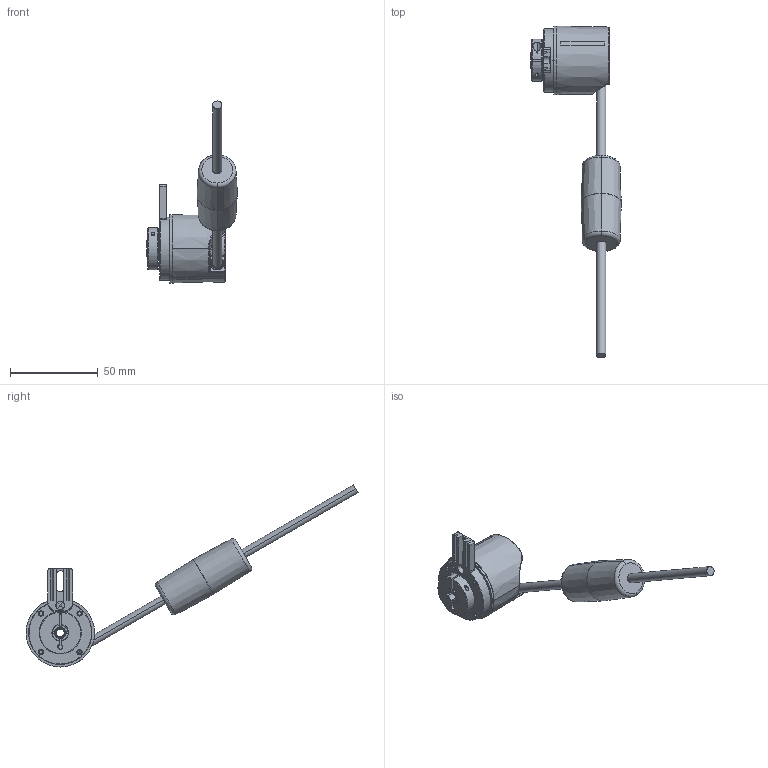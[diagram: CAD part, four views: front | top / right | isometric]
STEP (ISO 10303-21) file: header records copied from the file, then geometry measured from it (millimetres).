
FILE_DESCRIPTION (( 'STEP AP214' ), '1' );
FILE_NAME ('F3688.3521.XXXX.STEP', '2010-11-16T07:35:45', ( 'admin' ), ( 'Fritz Kübler GmbH' ), 'SwSTEP 2.0', 'SolidWorks 2009', '' );
FILE_SCHEMA (( 'AUTOMOTIVE_DESIGN' ));
Length unit declared in the file: millimetre
Products named in the file (1): F3688.3521.XXXX
Bounding box: 51.7 x 188.89 x 103.61 mm (x, y, z)
Surface area: 16028.8 mm2 (no closed solid volume)
Topology: 0 solids, 11 shells, 195 faces, 591 edges, 400 vertices
Faces by surface type: plane 60, cylinder 59, cone 42, torus 23, bspline 9, sphere 2
Entity records: 10175 total; most frequent: CARTESIAN_POINT 2807, DIRECTION 1107, ORIENTED_EDGE 995, EDGE_CURVE 590, AXIS2_PLACEMENT_3D 431, VERTEX_POINT 400, LINE 245, VECTOR 245
